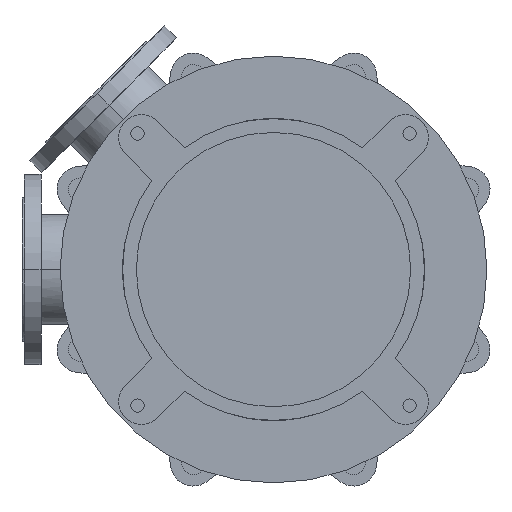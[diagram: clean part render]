
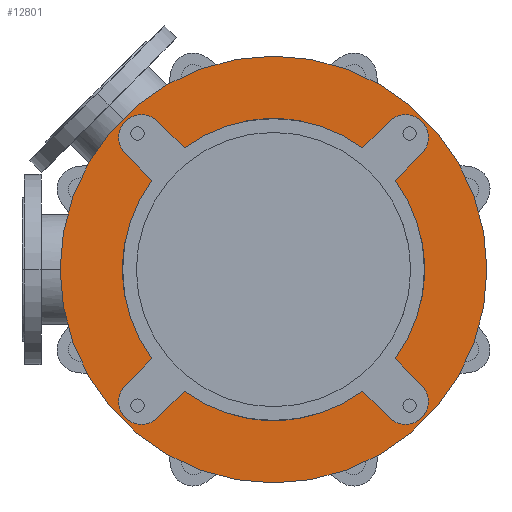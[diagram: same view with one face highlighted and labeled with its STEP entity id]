
A CAD part, front view. The second image highlights one B-rep face of the part: STEP entity #12801.
In plain terms, the highlighted planar face has unit normal (0, -1, 0).
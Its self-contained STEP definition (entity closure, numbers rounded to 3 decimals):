
#2491=CARTESIAN_POINT('',(0.,-25.,0.));
#2492=DIRECTION('',(0.,1.,0.));
#2493=DIRECTION('',(0.592,0.,-0.806));
#2494=AXIS2_PLACEMENT_3D('',#2491,#2492,#2493);
#2509=CARTESIAN_POINT('',(0.,-25.,0.));
#2510=DIRECTION('',(0.,1.,0.));
#2511=DIRECTION('',(0.806,0.,0.592));
#2512=AXIS2_PLACEMENT_3D('',#2509,#2510,#2511);
#2536=CARTESIAN_POINT('',(0.,-25.,0.));
#2537=DIRECTION('',(0.,1.,0.));
#2538=DIRECTION('',(-0.806,0.,-0.592));
#2539=AXIS2_PLACEMENT_3D('',#2536,#2537,#2538);
#2545=CARTESIAN_POINT('',(0.,-25.,0.));
#2546=DIRECTION('',(0.,1.,0.));
#2547=DIRECTION('',(-0.592,0.,0.806));
#2548=AXIS2_PLACEMENT_3D('',#2545,#2546,#2547);
#2723=CARTESIAN_POINT('',(0.,-25.,0.));
#2724=DIRECTION('',(0.,-1.,0.));
#2725=DIRECTION('',(-1.,0.,0.));
#2726=AXIS2_PLACEMENT_3D('',#2723,#2724,#2725);
#2728=CARTESIAN_POINT('',(0.,-25.,0.));
#2729=DIRECTION('',(0.,1.,0.));
#2730=DIRECTION('',(-1.,0.,0.));
#2731=AXIS2_PLACEMENT_3D('',#2728,#2729,#2730);
#2733=CARTESIAN_POINT('',(-173.241,-25.,173.241));
#2734=DIRECTION('',(0.,-1.,0.));
#2735=DIRECTION('',(0.707,0.,0.707));
#2736=AXIS2_PLACEMENT_3D('',#2733,#2734,#2735);
#2738=DIRECTION('',(0.707,0.,-0.707));
#2739=VECTOR('',#2738,49.286);
#2740=CARTESIAN_POINT('',(-194.454,-25.,152.028));
#2741=LINE('',#2740,#2739);
#2742=DIRECTION('',(-0.707,0.,-0.707));
#2743=VECTOR('',#2742,49.286);
#2744=CARTESIAN_POINT('',(-159.604,-25.,-117.178));
#2745=LINE('',#2744,#2743);
#2746=CARTESIAN_POINT('',(-173.241,-25.,-173.241));
#2747=DIRECTION('',(0.,-1.,0.));
#2748=DIRECTION('',(-0.707,0.,0.707));
#2749=AXIS2_PLACEMENT_3D('',#2746,#2747,#2748);
#2751=DIRECTION('',(0.707,0.,0.707));
#2752=VECTOR('',#2751,49.286);
#2753=CARTESIAN_POINT('',(-152.028,-25.,-194.454));
#2754=LINE('',#2753,#2752);
#2755=DIRECTION('',(0.707,0.,-0.707));
#2756=VECTOR('',#2755,49.286);
#2757=CARTESIAN_POINT('',(117.178,-25.,-159.604));
#2758=LINE('',#2757,#2756);
#2759=CARTESIAN_POINT('',(173.241,-25.,-173.241));
#2760=DIRECTION('',(0.,-1.,0.));
#2761=DIRECTION('',(-0.707,0.,-0.707));
#2762=AXIS2_PLACEMENT_3D('',#2759,#2760,#2761);
#2764=DIRECTION('',(-0.707,0.,0.707));
#2765=VECTOR('',#2764,49.286);
#2766=CARTESIAN_POINT('',(194.454,-25.,-152.028));
#2767=LINE('',#2766,#2765);
#2768=DIRECTION('',(0.707,0.,0.707));
#2769=VECTOR('',#2768,49.286);
#2770=CARTESIAN_POINT('',(159.604,-25.,117.178));
#2771=LINE('',#2770,#2769);
#2772=CARTESIAN_POINT('',(173.241,-25.,173.241));
#2773=DIRECTION('',(0.,-1.,0.));
#2774=DIRECTION('',(0.707,0.,-0.707));
#2775=AXIS2_PLACEMENT_3D('',#2772,#2773,#2774);
#2777=DIRECTION('',(-0.707,0.,-0.707));
#2778=VECTOR('',#2777,49.286);
#2779=CARTESIAN_POINT('',(152.028,-25.,194.454));
#2780=LINE('',#2779,#2778);
#2781=DIRECTION('',(-0.707,0.,0.707));
#2782=VECTOR('',#2781,49.286);
#2783=CARTESIAN_POINT('',(-117.178,-25.,159.604));
#2784=LINE('',#2783,#2782);
#8332=CARTESIAN_POINT('',(-280.,-25.,0.));
#8333=CARTESIAN_POINT('',(280.,-25.,0.));
#8334=VERTEX_POINT('',#8332);
#8335=VERTEX_POINT('',#8333);
#8356=CARTESIAN_POINT('',(-194.454,-25.,-152.028));
#8357=CARTESIAN_POINT('',(-152.028,-25.,-194.454));
#8358=VERTEX_POINT('',#8356);
#8359=VERTEX_POINT('',#8357);
#8360=CARTESIAN_POINT('',(-117.178,-25.,-159.604));
#8361=VERTEX_POINT('',#8360);
#8362=CARTESIAN_POINT('',(-159.604,-25.,-117.178));
#8363=VERTEX_POINT('',#8362);
#8372=CARTESIAN_POINT('',(152.028,-25.,-194.454));
#8373=CARTESIAN_POINT('',(194.454,-25.,-152.028));
#8374=VERTEX_POINT('',#8372);
#8375=VERTEX_POINT('',#8373);
#8376=CARTESIAN_POINT('',(159.604,-25.,-117.178));
#8377=VERTEX_POINT('',#8376);
#8378=CARTESIAN_POINT('',(117.178,-25.,-159.604));
#8379=VERTEX_POINT('',#8378);
#8388=CARTESIAN_POINT('',(194.454,-25.,152.028));
#8389=CARTESIAN_POINT('',(152.028,-25.,194.454));
#8390=VERTEX_POINT('',#8388);
#8391=VERTEX_POINT('',#8389);
#8392=CARTESIAN_POINT('',(117.178,-25.,159.604));
#8393=VERTEX_POINT('',#8392);
#8394=CARTESIAN_POINT('',(159.604,-25.,117.178));
#8395=VERTEX_POINT('',#8394);
#8404=CARTESIAN_POINT('',(-152.028,-25.,194.454));
#8405=CARTESIAN_POINT('',(-194.454,-25.,152.028));
#8406=VERTEX_POINT('',#8404);
#8407=VERTEX_POINT('',#8405);
#8408=CARTESIAN_POINT('',(-159.604,-25.,117.178));
#8409=VERTEX_POINT('',#8408);
#8410=CARTESIAN_POINT('',(-117.178,-25.,159.604));
#8411=VERTEX_POINT('',#8410);
#12761=CARTESIAN_POINT('',(0.,-25.,0.));
#12762=DIRECTION('',(0.,-1.,0.));
#12763=DIRECTION('',(-1.,0.,0.));
#12764=AXIS2_PLACEMENT_3D('',#12761,#12762,#12763);
#12765=PLANE('',#12764);
#12767=ORIENTED_EDGE('',*,*,#12766,.F.);
#12769=ORIENTED_EDGE('',*,*,#12768,.T.);
#12770=EDGE_LOOP('',(#12767,#12769));
#12771=FACE_OUTER_BOUND('',#12770,.F.);
#12773=ORIENTED_EDGE('',*,*,#12772,.T.);
#12775=ORIENTED_EDGE('',*,*,#12774,.T.);
#12776=ORIENTED_EDGE('',*,*,#12714,.F.);
#12778=ORIENTED_EDGE('',*,*,#12777,.T.);
#12780=ORIENTED_EDGE('',*,*,#12779,.T.);
#12782=ORIENTED_EDGE('',*,*,#12781,.T.);
#12783=ORIENTED_EDGE('',*,*,#12667,.F.);
#12784=ORIENTED_EDGE('',*,*,#12751,.T.);
#12786=ORIENTED_EDGE('',*,*,#12785,.T.);
#12788=ORIENTED_EDGE('',*,*,#12787,.T.);
#12789=ORIENTED_EDGE('',*,*,#12688,.F.);
#12791=ORIENTED_EDGE('',*,*,#12790,.T.);
#12793=ORIENTED_EDGE('',*,*,#12792,.T.);
#12795=ORIENTED_EDGE('',*,*,#12794,.T.);
#12796=ORIENTED_EDGE('',*,*,#12732,.F.);
#12798=ORIENTED_EDGE('',*,*,#12797,.T.);
#12799=EDGE_LOOP('',(#12773,#12775,#12776,#12778,#12780,#12782,#12783,#12784,
#12786,#12788,#12789,#12791,#12793,#12795,#12796,#12798));
#12800=FACE_BOUND('',#12799,.F.);
#12801=ADVANCED_FACE('',(#12771,#12800),#12765,.T.);
#2495=CIRCLE('',#2494,198.);
#2513=CIRCLE('',#2512,198.);
#2540=CIRCLE('',#2539,198.);
#2549=CIRCLE('',#2548,198.);
#2727=CIRCLE('',#2726,280.);
#2732=CIRCLE('',#2731,280.);
#2737=CIRCLE('',#2736,30.);
#2750=CIRCLE('',#2749,30.);
#2763=CIRCLE('',#2762,30.);
#2776=CIRCLE('',#2775,30.);
#12667=EDGE_CURVE('',#8379,#8361,#2495,.T.);
#12688=EDGE_CURVE('',#8395,#8377,#2513,.T.);
#12714=EDGE_CURVE('',#8363,#8409,#2540,.T.);
#12732=EDGE_CURVE('',#8411,#8393,#2549,.T.);
#12751=EDGE_CURVE('',#8379,#8374,#2758,.T.);
#12766=EDGE_CURVE('',#8334,#8335,#2727,.T.);
#12768=EDGE_CURVE('',#8334,#8335,#2732,.T.);
#12772=EDGE_CURVE('',#8406,#8407,#2737,.T.);
#12774=EDGE_CURVE('',#8407,#8409,#2741,.T.);
#12777=EDGE_CURVE('',#8363,#8358,#2745,.T.);
#12779=EDGE_CURVE('',#8358,#8359,#2750,.T.);
#12781=EDGE_CURVE('',#8359,#8361,#2754,.T.);
#12785=EDGE_CURVE('',#8374,#8375,#2763,.T.);
#12787=EDGE_CURVE('',#8375,#8377,#2767,.T.);
#12790=EDGE_CURVE('',#8395,#8390,#2771,.T.);
#12792=EDGE_CURVE('',#8390,#8391,#2776,.T.);
#12794=EDGE_CURVE('',#8391,#8393,#2780,.T.);
#12797=EDGE_CURVE('',#8411,#8406,#2784,.T.);
